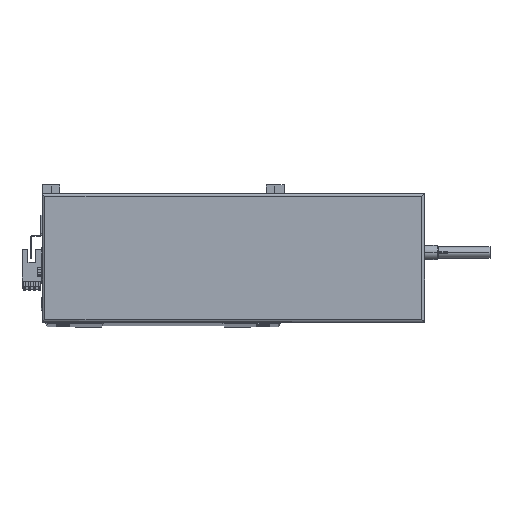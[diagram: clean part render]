
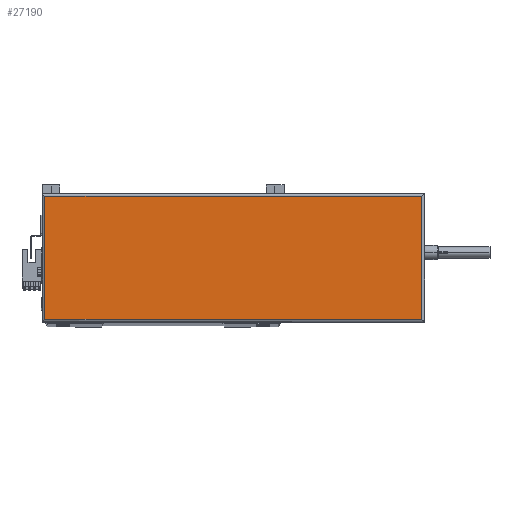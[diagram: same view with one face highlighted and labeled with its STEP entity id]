
A CAD part, top view. The second image highlights one B-rep face of the part: STEP entity #27190.
In plain terms, the highlighted planar face has unit normal (0, 0, 1).
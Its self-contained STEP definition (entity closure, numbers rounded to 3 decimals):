
#406 = VERTEX_POINT ( 'NONE', #25271 ) ;
#417 = LINE ( 'NONE', #3416, #32772 ) ;
#2631 = FACE_OUTER_BOUND ( 'NONE', #39679, .T. ) ;
#3416 = CARTESIAN_POINT ( 'NONE',  ( 265., 90., 44.8 ) ) ;
#4000 = PLANE ( 'NONE',  #33107 ) ;
#5754 = VERTEX_POINT ( 'NONE', #28165 ) ;
#7020 = EDGE_CURVE ( 'NONE', #22524, #5754, #47298, .T. ) ;
#8733 = CARTESIAN_POINT ( 'NONE',  ( 2., 0., 44.8 ) ) ;
#11629 = VECTOR ( 'NONE', #13693, 1000. ) ;
#12768 = DIRECTION ( 'NONE',  ( 1., 0., 0. ) ) ;
#13246 = VECTOR ( 'NONE', #12768, 1000. ) ;
#13693 = DIRECTION ( 'NONE',  ( 0., -1., 0. ) ) ;
#14972 = VECTOR ( 'NONE', #42202, 1000. ) ;
#19239 = CARTESIAN_POINT ( 'NONE',  ( 2., 2., 44.8 ) ) ;
#19708 = DIRECTION ( 'NONE',  ( 0., 1., 0. ) ) ;
#20317 = ORIENTED_EDGE ( 'NONE', *, *, #21257, .T. ) ;
#21257 = EDGE_CURVE ( 'NONE', #406, #22524, #417, .T. ) ;
#22022 = ORIENTED_EDGE ( 'NONE', *, *, #29823, .T. ) ;
#22524 = VERTEX_POINT ( 'NONE', #26221 ) ;
#25271 = CARTESIAN_POINT ( 'NONE',  ( 265., 2., 44.8 ) ) ;
#25953 = LINE ( 'NONE', #37067, #13246 ) ;
#26221 = CARTESIAN_POINT ( 'NONE',  ( 265., 88., 44.8 ) ) ;
#27190 = ADVANCED_FACE ( 'NONE', ( #2631 ), #4000, .T. ) ;
#27695 = DIRECTION ( 'NONE',  ( 0., 0., 1. ) ) ;
#28165 = CARTESIAN_POINT ( 'NONE',  ( 2., 88., 44.8 ) ) ;
#29290 = ORIENTED_EDGE ( 'NONE', *, *, #33774, .T. ) ;
#29823 = EDGE_CURVE ( 'NONE', #42224, #406, #25953, .T. ) ;
#32332 = DIRECTION ( 'NONE',  ( 1., 0., 0. ) ) ;
#32772 = VECTOR ( 'NONE', #19708, 1000. ) ;
#33107 = AXIS2_PLACEMENT_3D ( 'NONE', #44368, #27695, #32332 ) ;
#33774 = EDGE_CURVE ( 'NONE', #5754, #42224, #35792, .T. ) ;
#35792 = LINE ( 'NONE', #8733, #11629 ) ;
#37067 = CARTESIAN_POINT ( 'NONE',  ( 267., 2., 44.8 ) ) ;
#39679 = EDGE_LOOP ( 'NONE', ( #20317, #50367, #29290, #22022 ) ) ;
#42202 = DIRECTION ( 'NONE',  ( -1., 0., 0. ) ) ;
#42224 = VERTEX_POINT ( 'NONE', #19239 ) ;
#44368 = CARTESIAN_POINT ( 'NONE',  ( 133.5, 45., 44.8 ) ) ;
#45555 = CARTESIAN_POINT ( 'NONE',  ( 0., 88., 44.8 ) ) ;
#47298 = LINE ( 'NONE', #45555, #14972 ) ;
#50367 = ORIENTED_EDGE ( 'NONE', *, *, #7020, .T. ) ;
